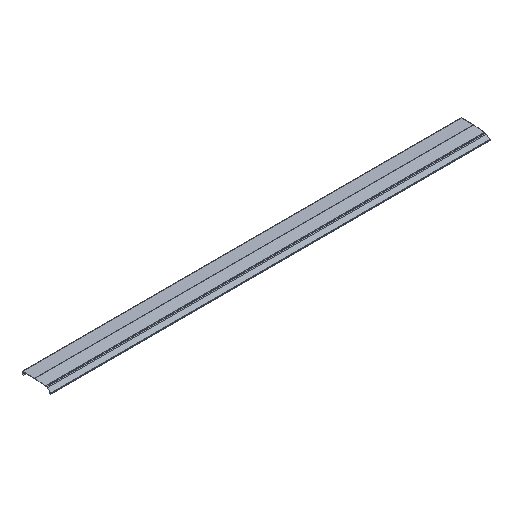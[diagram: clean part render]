
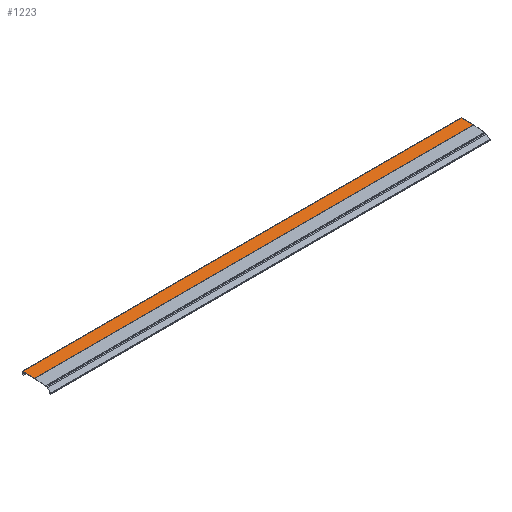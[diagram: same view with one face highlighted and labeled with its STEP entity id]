
A CAD part, isometric view. The second image highlights one B-rep face of the part: STEP entity #1223.
In plain terms, the highlighted planar face has unit normal (0, 0, 1).
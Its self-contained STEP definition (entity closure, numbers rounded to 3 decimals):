
#1223=ADVANCED_FACE('',(#2111),#2112,.T.);
#2111=FACE_OUTER_BOUND('',#3329,.T.);
#2112=PLANE('',#3330);
#3329=EDGE_LOOP('',(#4218,#4219,#4220,#4221));
#3330=AXIS2_PLACEMENT_3D('',#4222,#4223,#4224);
#4218=ORIENTED_EDGE('',*,*,#5095,.T.);
#4219=ORIENTED_EDGE('',*,*,#5093,.T.);
#4220=ORIENTED_EDGE('',*,*,#5096,.F.);
#4221=ORIENTED_EDGE('',*,*,#5023,.F.);
#4222=CARTESIAN_POINT('',(1800.0,66.5,24.));
#4223=DIRECTION('',(0.,0.,1.0));
#4224=DIRECTION('',(0.,1.0,0.));
#5023=EDGE_CURVE('',#5834,#5836,#5837,.T.);
#5093=EDGE_CURVE('',#5936,#5938,#5940,.T.);
#5095=EDGE_CURVE('',#5834,#5936,#5942,.T.);
#5096=EDGE_CURVE('',#5836,#5938,#5943,.T.);
#5834=VERTEX_POINT('',#6255);
#5836=VERTEX_POINT('',#6258);
#5837=LINE('',#6259,#6260);
#5936=VERTEX_POINT('',#6408);
#5938=VERTEX_POINT('',#6411);
#5940=LINE('',#6414,#6415);
#5942=LINE('',#6417,#6418);
#5943=LINE('',#6419,#6420);
#6255=CARTESIAN_POINT('',(1800.0,66.5,24.));
#6258=CARTESIAN_POINT('',(0.0,66.5,24.0));
#6259=CARTESIAN_POINT('',(1800.0,66.5,24.));
#6260=VECTOR('',#6618,1.0);
#6408=CARTESIAN_POINT('',(1800.0,118.0,24.));
#6411=CARTESIAN_POINT('',(0.0,118.0,24.0));
#6414=CARTESIAN_POINT('',(1800.0,118.0,24.));
#6415=VECTOR('',#6670,1.0);
#6417=CARTESIAN_POINT('',(1800.0,66.5,24.));
#6418=VECTOR('',#6671,1.0);
#6419=CARTESIAN_POINT('',(0.0,66.5,24.0));
#6420=VECTOR('',#6672,1.0);
#6618=DIRECTION('',(-1.0,0.0,0.));
#6670=DIRECTION('',(-1.0,0.0,0.));
#6671=DIRECTION('',(0.,1.0,0.));
#6672=DIRECTION('',(0.,1.0,0.));
